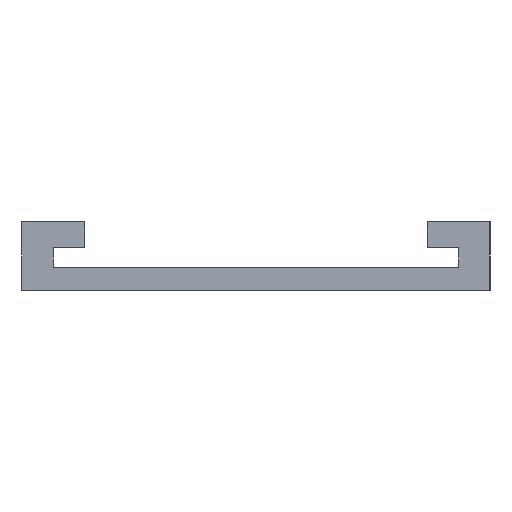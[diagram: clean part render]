
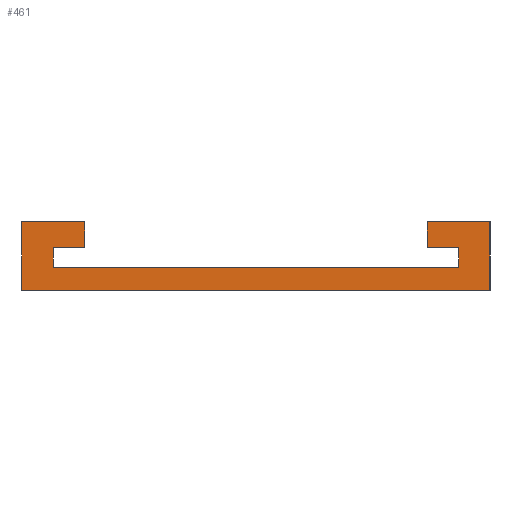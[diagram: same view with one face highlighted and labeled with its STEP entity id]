
A CAD part, left-side view. The second image highlights one B-rep face of the part: STEP entity #461.
In plain terms, the highlighted planar face has unit normal (-1, 0, 0).
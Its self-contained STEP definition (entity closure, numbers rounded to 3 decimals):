
#7 = DIRECTION ( 'NONE',  ( 0., 0., -1. ) ) ;
#8 = FACE_OUTER_BOUND ( 'NONE', #96, .T. ) ;
#13 = LINE ( 'NONE', #33, #357 ) ;
#22 = CARTESIAN_POINT ( 'NONE',  ( 0., 41., 0. ) ) ;
#24 = LINE ( 'NONE', #407, #66 ) ;
#32 = LINE ( 'NONE', #73, #112 ) ;
#33 = CARTESIAN_POINT ( 'NONE',  ( 0., 30., 7.5 ) ) ;
#38 = CARTESIAN_POINT ( 'NONE',  ( 0., 41., 12. ) ) ;
#44 = ORIENTED_EDGE ( 'NONE', *, *, #453, .F. ) ;
#50 = CARTESIAN_POINT ( 'NONE',  ( 0., 0., 0. ) ) ;
#61 = DIRECTION ( 'NONE',  ( 0., 0., 1. ) ) ;
#65 = VECTOR ( 'NONE', #322, 1000. ) ;
#66 = VECTOR ( 'NONE', #123, 1000. ) ;
#71 = VERTEX_POINT ( 'NONE', #344 ) ;
#72 = EDGE_CURVE ( 'NONE', #273, #79, #430, .T. ) ;
#73 = CARTESIAN_POINT ( 'NONE',  ( 0., 41., 12. ) ) ;
#79 = VERTEX_POINT ( 'NONE', #209 ) ;
#91 = CARTESIAN_POINT ( 'NONE',  ( 0., -30., 7.5 ) ) ;
#95 = LINE ( 'NONE', #324, #378 ) ;
#96 = EDGE_LOOP ( 'NONE', ( #437, #411, #183, #267, #121, #347, #186, #373, #44, #369, #309, #296 ) ) ;
#97 = EDGE_CURVE ( 'NONE', #321, #367, #132, .T. ) ;
#103 = VERTEX_POINT ( 'NONE', #341 ) ;
#106 = VECTOR ( 'NONE', #423, 1000. ) ;
#107 = LINE ( 'NONE', #403, #194 ) ;
#111 = DIRECTION ( 'NONE',  ( 0., -1., 0. ) ) ;
#112 = VECTOR ( 'NONE', #111, 1000. ) ;
#121 = ORIENTED_EDGE ( 'NONE', *, *, #414, .F. ) ;
#123 = DIRECTION ( 'NONE',  ( 0., -1., 0. ) ) ;
#132 = LINE ( 'NONE', #22, #410 ) ;
#154 = CARTESIAN_POINT ( 'NONE',  ( 0., -41., 0. ) ) ;
#160 = DIRECTION ( 'NONE',  ( 0., 0., 1. ) ) ;
#162 = DIRECTION ( 'NONE',  ( 0., 0., -1. ) ) ;
#163 = VERTEX_POINT ( 'NONE', #182 ) ;
#169 = CARTESIAN_POINT ( 'NONE',  ( 0., -35.5, 7.5 ) ) ;
#174 = LINE ( 'NONE', #301, #325 ) ;
#178 = VECTOR ( 'NONE', #160, 1000. ) ;
#182 = CARTESIAN_POINT ( 'NONE',  ( 0., -30., 12. ) ) ;
#183 = ORIENTED_EDGE ( 'NONE', *, *, #213, .F. ) ;
#185 = CARTESIAN_POINT ( 'NONE',  ( 0., 41., 0. ) ) ;
#186 = ORIENTED_EDGE ( 'NONE', *, *, #332, .F. ) ;
#188 = EDGE_CURVE ( 'NONE', #408, #103, #13, .T. ) ;
#194 = VECTOR ( 'NONE', #432, 1000. ) ;
#196 = CARTESIAN_POINT ( 'NONE',  ( 0., -35.5, 4. ) ) ;
#198 = DIRECTION ( 'NONE',  ( 0., 0., -1. ) ) ;
#201 = EDGE_CURVE ( 'NONE', #367, #304, #32, .T. ) ;
#203 = LINE ( 'NONE', #91, #282 ) ;
#209 = CARTESIAN_POINT ( 'NONE',  ( 0., -30., 7.5 ) ) ;
#213 = EDGE_CURVE ( 'NONE', #383, #71, #441, .T. ) ;
#235 = DIRECTION ( 'NONE',  ( 1., 0., 0. ) ) ;
#239 = VECTOR ( 'NONE', #247, 1000. ) ;
#247 = DIRECTION ( 'NONE',  ( 0., 1., 0. ) ) ;
#267 = ORIENTED_EDGE ( 'NONE', *, *, #372, .F. ) ;
#273 = VERTEX_POINT ( 'NONE', #363 ) ;
#281 = LINE ( 'NONE', #328, #178 ) ;
#282 = VECTOR ( 'NONE', #366, 1000. ) ;
#290 = CARTESIAN_POINT ( 'NONE',  ( 0., -41., 12. ) ) ;
#293 = CARTESIAN_POINT ( 'NONE',  ( 0., 30., 12. ) ) ;
#296 = ORIENTED_EDGE ( 'NONE', *, *, #201, .F. ) ;
#299 = CARTESIAN_POINT ( 'NONE',  ( 0., 35.5, 4. ) ) ;
#301 = CARTESIAN_POINT ( 'NONE',  ( 0., 35.5, 7.5 ) ) ;
#304 = VERTEX_POINT ( 'NONE', #293 ) ;
#308 = EDGE_CURVE ( 'NONE', #71, #321, #351, .T. ) ;
#309 = ORIENTED_EDGE ( 'NONE', *, *, #381, .F. ) ;
#318 = DIRECTION ( 'NONE',  ( 0., 1., 0. ) ) ;
#321 = VERTEX_POINT ( 'NONE', #185 ) ;
#322 = DIRECTION ( 'NONE',  ( 0., 1., 0. ) ) ;
#324 = CARTESIAN_POINT ( 'NONE',  ( 0., 30., 12. ) ) ;
#325 = VECTOR ( 'NONE', #162, 1000. ) ;
#328 = CARTESIAN_POINT ( 'NONE',  ( 0., -35.5, 4. ) ) ;
#332 = EDGE_CURVE ( 'NONE', #348, #273, #281, .T. ) ;
#341 = CARTESIAN_POINT ( 'NONE',  ( 0., 35.5, 7.5 ) ) ;
#344 = CARTESIAN_POINT ( 'NONE',  ( 0., -41., 0. ) ) ;
#347 = ORIENTED_EDGE ( 'NONE', *, *, #72, .F. ) ;
#348 = VERTEX_POINT ( 'NONE', #196 ) ;
#351 = LINE ( 'NONE', #154, #65 ) ;
#357 = VECTOR ( 'NONE', #318, 1000. ) ;
#363 = CARTESIAN_POINT ( 'NONE',  ( 0., -35.5, 7.5 ) ) ;
#366 = DIRECTION ( 'NONE',  ( 0., 0., 1. ) ) ;
#367 = VERTEX_POINT ( 'NONE', #38 ) ;
#369 = ORIENTED_EDGE ( 'NONE', *, *, #188, .F. ) ;
#371 = CARTESIAN_POINT ( 'NONE',  ( 0., 30., 7.5 ) ) ;
#372 = EDGE_CURVE ( 'NONE', #163, #383, #107, .T. ) ;
#373 = ORIENTED_EDGE ( 'NONE', *, *, #457, .F. ) ;
#378 = VECTOR ( 'NONE', #198, 1000. ) ;
#381 = EDGE_CURVE ( 'NONE', #304, #408, #95, .T. ) ;
#383 = VERTEX_POINT ( 'NONE', #290 ) ;
#394 = CARTESIAN_POINT ( 'NONE',  ( 0., -41., 12. ) ) ;
#403 = CARTESIAN_POINT ( 'NONE',  ( 0., -30., 12. ) ) ;
#405 = PLANE ( 'NONE',  #431 ) ;
#407 = CARTESIAN_POINT ( 'NONE',  ( 0., 35.5, 4. ) ) ;
#408 = VERTEX_POINT ( 'NONE', #371 ) ;
#410 = VECTOR ( 'NONE', #61, 1000. ) ;
#411 = ORIENTED_EDGE ( 'NONE', *, *, #308, .F. ) ;
#414 = EDGE_CURVE ( 'NONE', #79, #163, #203, .T. ) ;
#423 = DIRECTION ( 'NONE',  ( 0., 0., -1. ) ) ;
#430 = LINE ( 'NONE', #169, #239 ) ;
#431 = AXIS2_PLACEMENT_3D ( 'NONE', #50, #235, #7 ) ;
#432 = DIRECTION ( 'NONE',  ( 0., -1., 0. ) ) ;
#437 = ORIENTED_EDGE ( 'NONE', *, *, #97, .F. ) ;
#441 = LINE ( 'NONE', #394, #106 ) ;
#453 = EDGE_CURVE ( 'NONE', #103, #460, #174, .T. ) ;
#457 = EDGE_CURVE ( 'NONE', #460, #348, #24, .T. ) ;
#460 = VERTEX_POINT ( 'NONE', #299 ) ;
#461 = ADVANCED_FACE ( 'NONE', ( #8 ), #405, .F. ) ;
